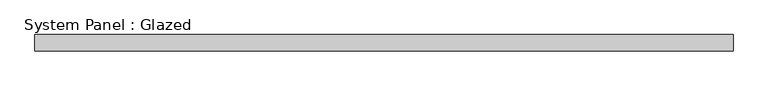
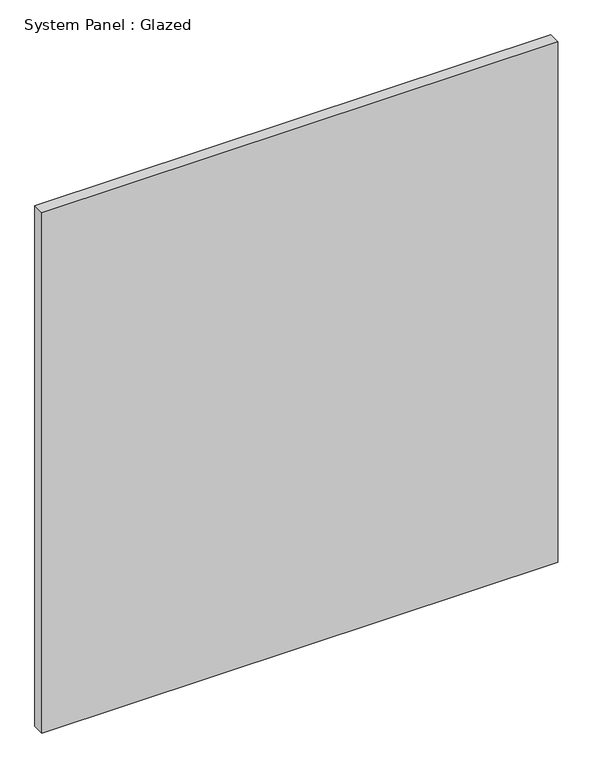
"""IFC4 building model written with IfcOpenShell, lengths in millimetres: plate geometry, System Panel : Glazed."""

from ifc_helpers import new_model, si_unit, origin, origin_with_axes, place, context, project, spatial, polyline, outline, extrude, source, transform, mapped, element, save


def system_panel_glazed_1b8c3ea5(model_context):
    return source(origin(), model_context, "Body", "SweptSolid", [
        extrude(outline(polyline([(541.655, -44.45), (-541.655, -44.45), (-541.655, -19.05), (541.655, -19.05), (541.655, -44.45)])), origin_with_axes(), (0.0, 0.0, 1.0), 1155.7),
    ])


if __name__ == "__main__":
    model = new_model("IFC4")
    model_context = context("Model", 3, world=origin())
    ifc_project = project(units=[si_unit("LENGTHUNIT", "METRE", prefix="MILLI")], contexts=[model_context])
    site = spatial("IfcSite", under=ifc_project)
    building = spatial("IfcBuilding", under=site)
    placement = place(None, origin())
    system_panel_glazed_shape = system_panel_glazed_1b8c3ea5(model_context)
    element("IfcPlate", 1, ObjectType="System Panel : Glazed", at=placement, inside=building, context=model_context, shape_type="MappedRepresentation", body=[
        mapped(system_panel_glazed_shape, transform((0.0, 0.0, 0.0), x_axis=(1.0, 0.0, 0.0), y_axis=(0.0, 1.0, 0.0), z_axis=(0.0, 0.0, 1.0))),
    ])
    save(model, "model.ifc")
